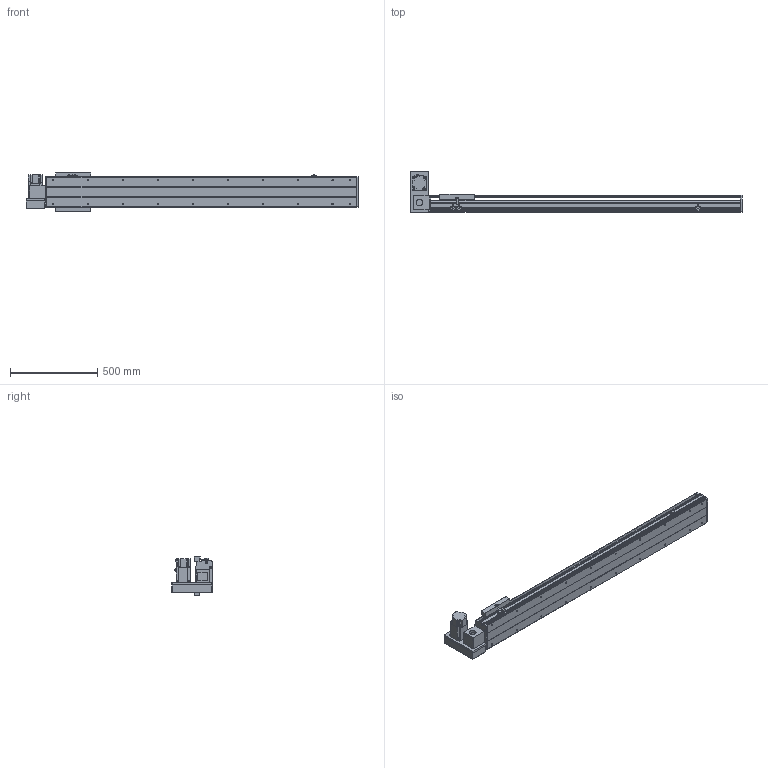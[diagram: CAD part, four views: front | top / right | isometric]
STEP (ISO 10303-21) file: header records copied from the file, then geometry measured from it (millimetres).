
FILE_DESCRIPTION(/* description */ ('STEP AP214'),/* implementation_level */ '2;1');
FILE_NAME(/* name */ 'PBS200-P40-S1400-LU-T75-C1-N(0)',/* time_stamp */ '2022-06-11T09:00:19+02:00',/* author */ ('License CC BY-ND 4.0'),/* organization */ ('CADENAS'),/* preprocessor_version */ 'ST-DEVELOPER v18.102',/* originating_system */ 'PARTsolutions',/* authorisation */ ' ');
FILE_SCHEMA (('AUTOMOTIVE_DESIGN {1 0 10303 214 3 1 1}'));
Length unit declared in the file: millimetre
Products named in the file (7): PBS200-P40-S1400-LU-T75-C1-N(0); PBS200_sensor; PBS200_plant; PBS200_sliser; T75-p1; PBS200T-LU_motors; PBS200-S1400()_body
Assembly tree (8 placements, depth 2):
  PBS200-P40-S1400-LU-T75-C1-N(0)
    PBS200_sensor  x3
    PBS200_plant
    PBS200_sliser
    T75-p1
    PBS200T-LU_motors
    PBS200-S1400()_body
Bounding box: 1900 x 231 x 221 mm (x, y, z)
Volume: 13734912.3 mm3; surface area: 2213444.9 mm2
Topology: 8 solids, 8 shells, 932 faces, 2394 edges, 1560 vertices
Faces by surface type: plane 578, cylinder 302, cone 52
Full cylindrical faces by diameter (mm): 2.459 x6, 3.242 x4, 4.5 x6, 4.917 x4, 5 x6, 6 x7, 6.6 x8, 6.647 x24, 8 x6, 10 x4, 12 x8, 38 x2, 40 x1, 70 x1
Entity records: 24821 total; most frequent: DIRECTION 4375, CARTESIAN_POINT 4228, ORIENTED_EDGE 4006, EDGE_CURVE 2003, AXIS2_PLACEMENT_3D 1531, VERTEX_POINT 1384, LINE 1313, VECTOR 1313
